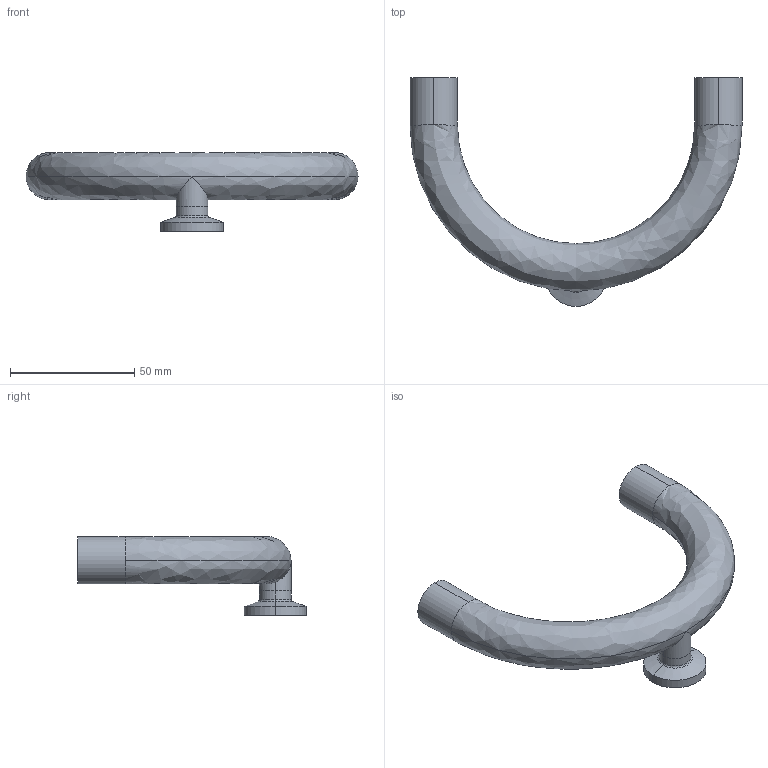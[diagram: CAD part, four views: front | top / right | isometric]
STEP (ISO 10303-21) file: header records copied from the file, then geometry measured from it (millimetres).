
FILE_DESCRIPTION (( 'STEP AP214' ), '1' );
FILE_NAME ('TE2USWWC6L.75x.5-...STEP', '2016-05-25T05:33:14', ( 'eran' ), ( '' ), 'SwSTEP 2.0', 'SolidWorks 2016', '' );
FILE_SCHEMA (( 'AUTOMOTIVE_DESIGN' ));
Length unit declared in the file: millimetre
Products named in the file (1): TE2USWWC6L.75x.5-..
Bounding box: 133.35 x 91.87 x 31.73 mm (x, y, z)
Volume: 21641.1 mm3; surface area: 25894.4 mm2
Topology: 2 solids, 2 shells, 42 faces, 98 edges, 60 vertices
Faces by surface type: cylinder 20, bspline 12, plane 6, cone 4
Entity records: 1676 total; most frequent: CARTESIAN_POINT 676, DIRECTION 214, ORIENTED_EDGE 196, EDGE_CURVE 98, AXIS2_PLACEMENT_3D 95, CIRCLE 64, VERTEX_POINT 60, EDGE_LOOP 48
